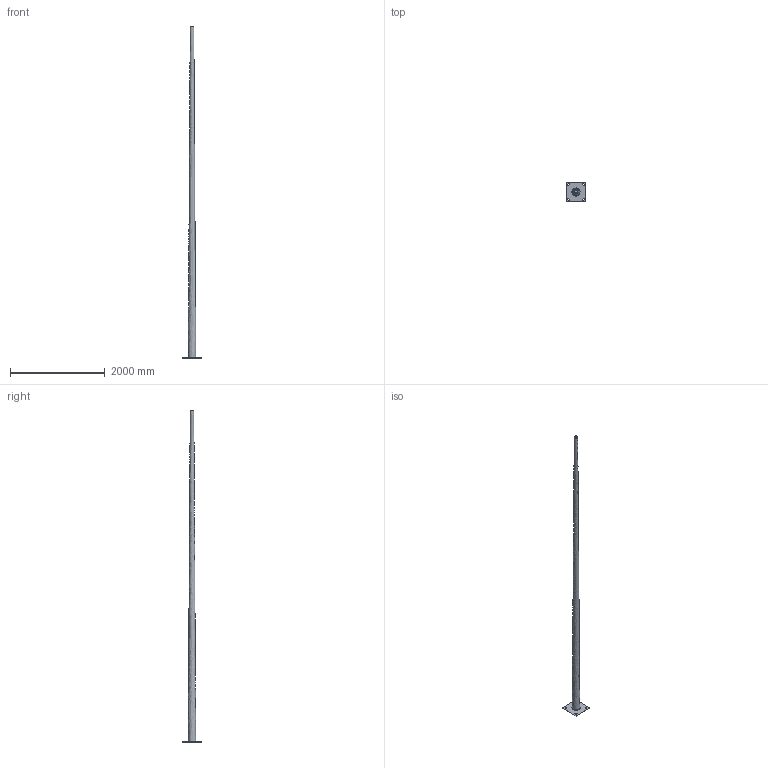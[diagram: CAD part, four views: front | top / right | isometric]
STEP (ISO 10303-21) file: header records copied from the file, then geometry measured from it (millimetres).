
FILE_DESCRIPTION(('FreeCAD Model'),'2;1');
FILE_NAME('Open CASCADE Shape Model','2024-12-18T15:06:15',(''),(''), 'Open CASCADE STEP processor 7.8','FreeCAD','Unknown');
FILE_SCHEMA(('AUTOMOTIVE_DESIGN { 1 0 10303 214 1 1 1 1 }'));
Length unit declared in the file: millimetre
Products named in the file (1): Body
Bounding box: 412 x 412 x 7000 mm (x, y, z)
Volume: 8466425.4 mm3; surface area: 5438041.9 mm2
Topology: 1 solids, 1 shells, 51 faces, 140 edges, 93 vertices
Faces by surface type: plane 32, cylinder 16, bspline 2, offset 1
Entity records: 3067 total; most frequent: CARTESIAN_POINT 1824, ORIENTED_EDGE 280, DIRECTION 198, EDGE_CURVE 140, VERTEX_POINT 93, LINE 68, VECTOR 68, AXIS2_PLACEMENT_3D 65
